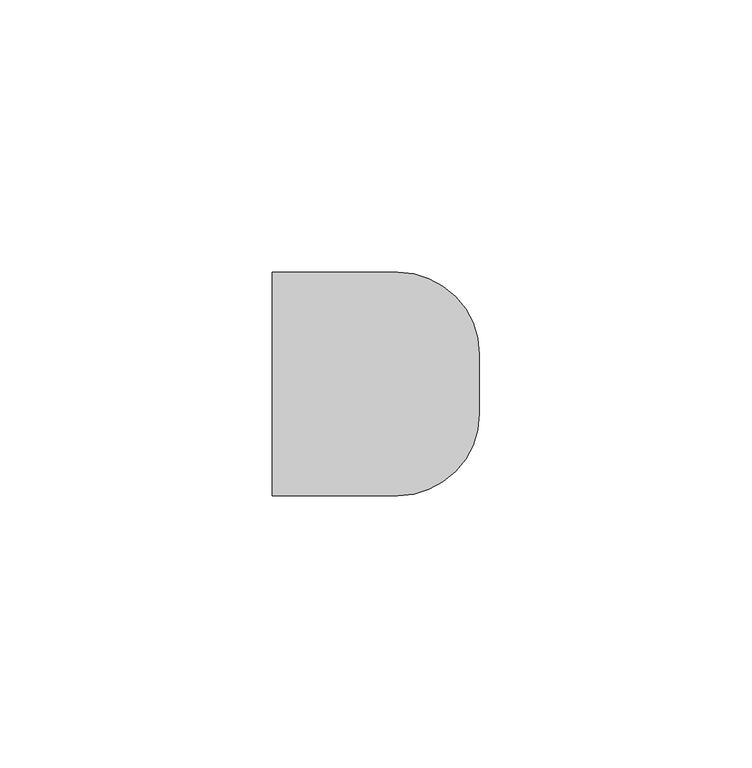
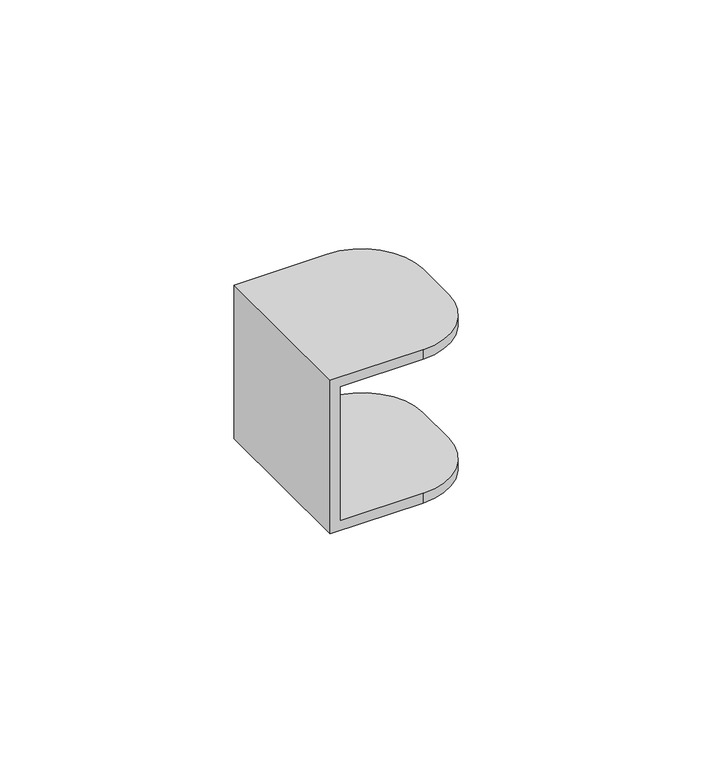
"""IFC4 building model written with IfcOpenShell, lengths in millimetres: proxy geometry, 4182CV-2_Variable set-Basorfix : Basorfix 4182CV-2 GC."""

from ifc_helpers import new_model, si_unit, frame, origin, place, context, project, spatial, circle_curve, source, transform, mapped, element, save
from ifc_brep_helpers import plane_surface, cylinder_surface, advanced_brep


def generic_models_194c1ab4(model_context):
    return source(origin(), model_context, "Body", "AdvancedBrep", [
        advanced_brep(
        [(0.0, -20.5, 40.0), (0.0, -20.5, 0.0), (23.0, -20.5, 0.0), (23.0, -20.5, 2.5), (2.5, -20.5, 2.5), (2.5, -20.5, 37.5), (23.0, -20.5, 37.5), (23.0, -20.5, 40.0), (2.5, 20.5, 37.5), (2.5, 20.5, 2.5), (23.0, 20.5, 2.5), (23.0, 20.5, 0.0), (0.0, 20.5, 0.0), (0.0, 20.5, 40.0), (23.0, 20.5, 40.0), (23.0, 20.5, 37.5), (38.0, -5.5, 40.0), (38.0, 5.5, 40.0), (38.0, 5.5, 0.0), (38.0, -5.5, 0.0), (38.0, 5.5, 2.5), (38.0, -5.5, 2.5), (38.0, 5.5, 37.5), (38.0, -5.5, 37.5)],
        [
            (0, 1),
            (1, 2),
            (2, 3),
            (3, 4),
            (4, 5),
            (5, 6),
            (6, 7),
            (7, 0),
            (8, 9),
            (9, 10),
            (10, 11),
            (11, 12),
            (12, 13),
            (13, 14),
            (14, 15),
            (15, 8),
            (13, 0),
            (7, 16, circle_curve(frame((23.0, -5.5, 40.0), z_axis=(0.0, 0.0, 1.0), x_axis=(1.0, 0.0, 0.0)), 15.0)),
            (16, 17),
            (17, 14, circle_curve(frame((23.0, 5.5, 40.0), z_axis=(0.0, 0.0, 1.0), x_axis=(1.0, 0.0, 0.0)), 15.0)),
            (12, 1),
            (11, 18, circle_curve(frame((23.0, 5.5, 0.0), z_axis=(0.0, 0.0, -1.0), x_axis=(1.0, 0.0, 0.0)), 15.0)),
            (18, 19),
            (19, 2, circle_curve(frame((23.0, -5.5, 0.0), z_axis=(0.0, 0.0, -1.0), x_axis=(1.0, 0.0, 0.0)), 15.0)),
            (18, 20),
            (20, 21),
            (21, 19),
            (9, 4),
            (3, 21, circle_curve(frame((23.0, -5.5, 2.5), z_axis=(0.0, 0.0, 1.0), x_axis=(1.0, 0.0, 0.0)), 15.0)),
            (20, 10, circle_curve(frame((23.0, 5.5, 2.5), z_axis=(0.0, 0.0, 1.0), x_axis=(1.0, 0.0, 0.0)), 15.0)),
            (8, 5),
            (15, 22, circle_curve(frame((23.0, 5.5, 37.5), z_axis=(0.0, 0.0, -1.0), x_axis=(1.0, 0.0, 0.0)), 15.0)),
            (22, 23),
            (23, 6, circle_curve(frame((23.0, -5.5, 37.5), z_axis=(0.0, 0.0, -1.0), x_axis=(1.0, 0.0, 0.0)), 15.0)),
            (16, 23),
            (22, 17),
        ],
        [
            plane_surface(frame((38.0, -20.5, 40.0), z_axis=(0.0, -1.0, 0.0), x_axis=(-1.0, 0.0, 0.0))),
            plane_surface(frame((38.0, 20.5, 40.0), z_axis=(0.0, 1.0, 0.0), x_axis=(1.0, 0.0, 0.0))),
            plane_surface(frame((38.0, -20.5, 40.0), z_axis=(0.0, 0.0, 1.0), x_axis=(0.0, 1.0, 0.0))),
            plane_surface(frame((0.0, -20.5, 40.0), z_axis=(-1.0, 0.0, 0.0), x_axis=(0.0, 1.0, 0.0))),
            plane_surface(frame((0.0, -20.5, 0.0), z_axis=(0.0, 0.0, -1.0), x_axis=(0.0, 1.0, 0.0))),
            plane_surface(frame((38.0, -20.5, 0.0), z_axis=(1.0, 0.0, 0.0), x_axis=(0.0, 1.0, 0.0))),
            plane_surface(frame((38.0, -20.5, 2.5), z_axis=(0.0, 0.0, 1.0), x_axis=(0.0, 1.0, 0.0))),
            plane_surface(frame((2.5, -20.5, 2.5), z_axis=(1.0, 0.0, 0.0), x_axis=(0.0, 1.0, 0.0))),
            plane_surface(frame((2.5, -20.5, 37.5), z_axis=(0.0, 0.0, -1.0), x_axis=(0.0, 1.0, 0.0))),
            plane_surface(frame((38.0, -20.5, 37.5), z_axis=(1.0, 0.0, 0.0), x_axis=(0.0, 1.0, 0.0))),
            cylinder_surface(frame((23.0, 5.5, 0.0), z_axis=(0.0, 0.0, -1.0), x_axis=(1.0, 0.0, 0.0)), 15.0),
            cylinder_surface(frame((23.0, -5.5, 0.0), z_axis=(0.0, 0.0, -1.0), x_axis=(1.0, 0.0, 0.0)), 15.0),
        ],
        [
            (0, [[1, 2, 3, 4, 5, 6, 7, 8]]),
            (1, [[9, 10, 11, 12, 13, 14, 15, 16]]),
            (2, [[17, -8, 18, 19, 20, -14]]),
            (3, [[-1, -17, -13, 21]]),
            (4, [[-21, -12, 22, 23, 24, -2]]),
            (5, [[-23, 25, 26, 27]]),
            (6, [[28, -4, 29, -26, 30, -10]]),
            (7, [[-5, -28, -9, 31]]),
            (8, [[-31, -16, 32, 33, 34, -6]]),
            (9, [[-19, 35, -33, 36]]),
            (10, [[-11, -30, -25, -22]]),
            (10, [[-15, -20, -36, -32]]),
            (11, [[-3, -24, -27, -29]]),
            (11, [[-7, -34, -35, -18]]),
        ],
    ),
    ])


if __name__ == "__main__":
    model = new_model("IFC4")
    model_context = context("Model", 3, world=origin())
    ifc_project = project(units=[si_unit("LENGTHUNIT", "METRE", prefix="MILLI")], contexts=[model_context])
    site = spatial("IfcSite", under=ifc_project)
    building = spatial("IfcBuilding", under=site)
    placement = place(None, origin())
    generic_models_shape = generic_models_194c1ab4(model_context)
    element("IfcBuildingElementProxy", 1, Name="4182CV-2_Variable set-Basorfix : Basorfix 4182CV-2 GC", ObjectType="4182CV-2_Variable set-Basorfix : Basorfix 4182CV-2 GC", at=placement, inside=building, context=model_context, shape_type="MappedRepresentation", body=[
        mapped(generic_models_shape, transform((0.0, 0.0, 0.0), x_axis=(1.0, 0.0, 0.0), y_axis=(0.0, 1.0, 0.0), z_axis=(0.0, 0.0, 1.0))),
    ])
    save(model, "model.ifc")
